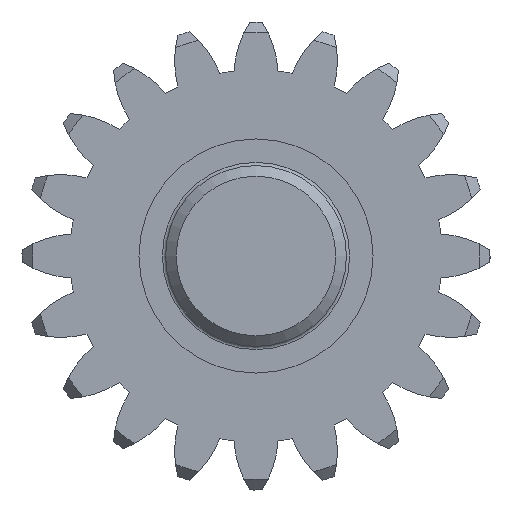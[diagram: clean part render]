
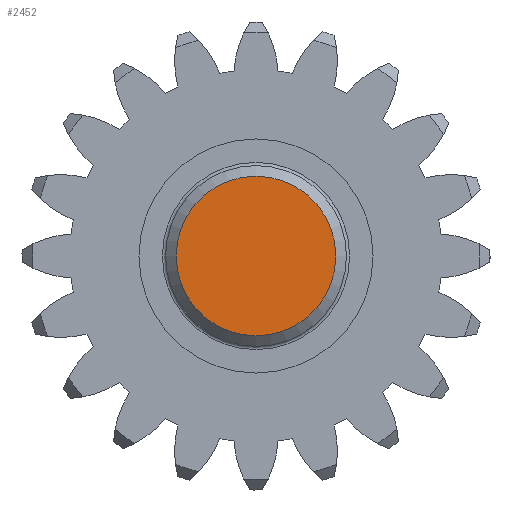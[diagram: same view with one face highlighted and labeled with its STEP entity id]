
A CAD part, left-side view. The second image highlights one B-rep face of the part: STEP entity #2452.
In plain terms, the highlighted planar face has unit normal (-1, 0, 0).
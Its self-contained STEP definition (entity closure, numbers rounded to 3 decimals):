
#25=PLANE($,#2622);
#419=FACE_OUTER_BOUND($,#583,.T.);
#583=EDGE_LOOP($,(#1659));
#731=CIRCLE($,#2621,7.5);
#961=VERTEX_POINT($,#3894);
#1235=EDGE_CURVE($,#961,#961,#731,.T.);
#1659=ORIENTED_EDGE($,*,*,#1235,.F.);
#2452=ADVANCED_FACE($,(#419),#25,.T.);
#2621=AXIS2_PLACEMENT_3D($,#3895,#3041,#3042);
#2622=AXIS2_PLACEMENT_3D($,#3896,#3043,#3044);
#3041=DIRECTION('center_axis',(1.,0.,0.));
#3042=DIRECTION('ref_axis',(0.,-1.,0.));
#3043=DIRECTION('center_axis',(-1.,0.,0.));
#3044=DIRECTION('ref_axis',(0.,0.,1.));
#3894=CARTESIAN_POINT('',(0.,7.5,0.));
#3895=CARTESIAN_POINT('Origin',(0.,0.,
0.));
#3896=CARTESIAN_POINT('Origin',(0.,8.5,0.));
